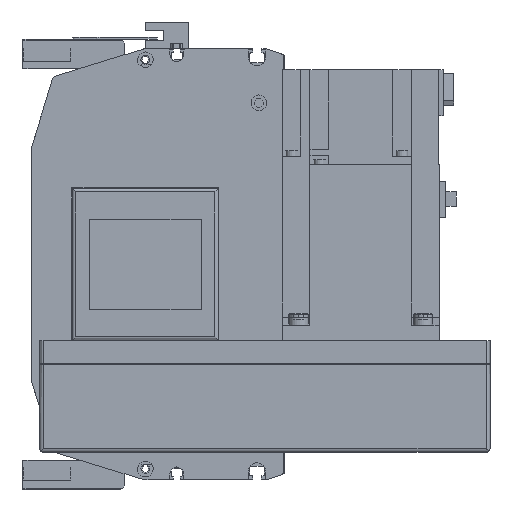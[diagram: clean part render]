
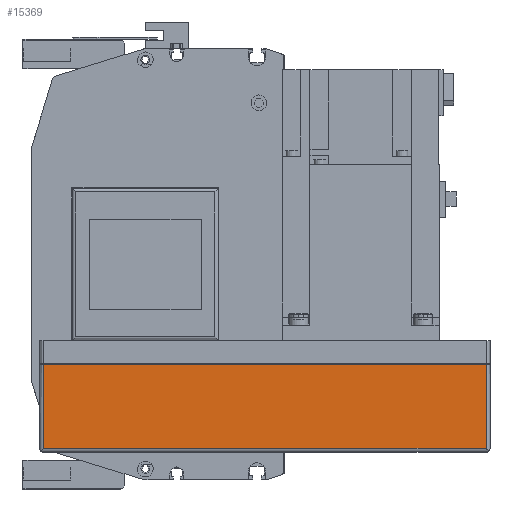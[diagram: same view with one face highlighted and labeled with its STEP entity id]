
A CAD part, left-side view. The second image highlights one B-rep face of the part: STEP entity #15369.
In plain terms, the highlighted planar face has unit normal (-1, 0, 0) as drawn and (0, 1, 0) by its records, which use the part's own axes.
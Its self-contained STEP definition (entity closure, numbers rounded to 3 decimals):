
#2604=ORIENTED_EDGE('',*,*,#6250,.F.);
#2605=ORIENTED_EDGE('',*,*,#6190,.T.);
#2606=ORIENTED_EDGE('',*,*,#6251,.F.);
#2607=ORIENTED_EDGE('',*,*,#6185,.F.);
#6185=EDGE_CURVE('',#8154,#8155,#9744,.T.);
#6190=EDGE_CURVE('',#8160,#8159,#9746,.T.);
#6250=EDGE_CURVE('',#8160,#8154,#9789,.T.);
#6251=EDGE_CURVE('',#8155,#8159,#9790,.T.);
#8154=VERTEX_POINT('',#23945);
#8155=VERTEX_POINT('',#23947);
#8159=VERTEX_POINT('',#23956);
#8160=VERTEX_POINT('',#23958);
#9744=LINE('',#23946,#11101);
#9746=LINE('',#23957,#11103);
#9789=LINE('',#24080,#11146);
#9790=LINE('',#24081,#11147);
#11101=VECTOR('',#19106,1000.);
#11103=VECTOR('',#19116,1000.);
#11146=VECTOR('',#19237,1000.);
#11147=VECTOR('',#19238,1000.);
#12312=EDGE_LOOP('',(#2604,#2605,#2606,#2607));
#13597=FACE_BOUND('',#12312,.T.);
#14720=PLANE('',#16505);
#15369=ADVANCED_FACE('',(#13597),#14720,.T.);
#16505=AXIS2_PLACEMENT_3D('',#24079,#19235,#19236);
#19106=DIRECTION('',(0.,0.,1.));
#19116=DIRECTION('',(0.,0.,1.));
#19235=DIRECTION('',(0.,1.,0.));
#19236=DIRECTION('',(0.,0.,1.));
#19237=DIRECTION('',(1.,0.,0.));
#19238=DIRECTION('',(-1.,0.,0.));
#23945=CARTESIAN_POINT('',(-2.,54.,-55.));
#23946=CARTESIAN_POINT('',(-2.,54.,-57.));
#23947=CARTESIAN_POINT('',(-2.,54.,-12.));
#23956=CARTESIAN_POINT('',(-228.,54.,-12.));
#23957=CARTESIAN_POINT('',(-228.,54.,-57.));
#23958=CARTESIAN_POINT('',(-228.,54.,-55.));
#24079=CARTESIAN_POINT('',(-2.,54.,-57.));
#24080=CARTESIAN_POINT('',(-230.,54.,-55.));
#24081=CARTESIAN_POINT('',(-2.,54.,-12.));
